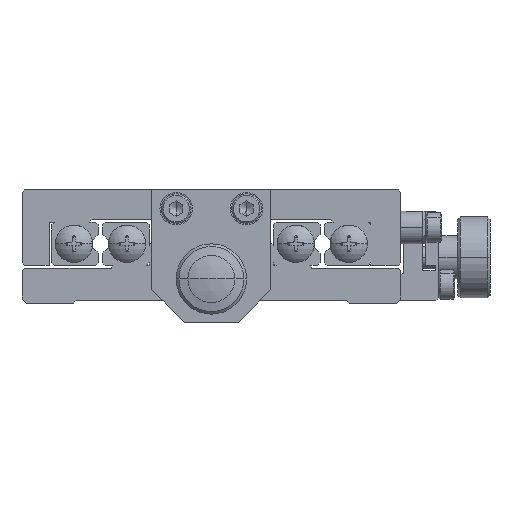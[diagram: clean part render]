
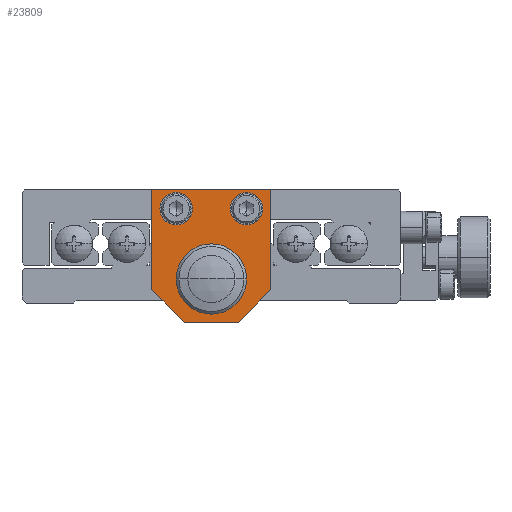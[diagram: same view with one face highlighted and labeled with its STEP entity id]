
A CAD part, front view. The second image highlights one B-rep face of the part: STEP entity #23809.
In plain terms, the highlighted planar face has unit normal (0, -1, 0).
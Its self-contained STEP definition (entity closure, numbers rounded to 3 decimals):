
#19445 = EDGE_CURVE ( 'NONE', #19447, #19449, #36087, .T. ) ;
#19447 = VERTEX_POINT ( 'NONE', #36082 ) ;
#19449 = VERTEX_POINT ( 'NONE', #36081 ) ;
#19724 = EDGE_CURVE ( 'NONE', #19895, #19725, #36398, .T. ) ;
#19725 = VERTEX_POINT ( 'NONE', #36393 ) ;
#19808 = EDGE_CURVE ( 'NONE', #19811, #19813, #36489, .T. ) ;
#19811 = VERTEX_POINT ( 'NONE', #36547 ) ;
#19813 = VERTEX_POINT ( 'NONE', #36546 ) ;
#19895 = VERTEX_POINT ( 'NONE', #36638 ) ;
#23787 = EDGE_CURVE ( 'NONE', #23928, #23815, #41433, .T. ) ;
#23791 = EDGE_LOOP ( 'NONE', ( #23792, #23889 ) ) ;
#23792 = ORIENTED_EDGE ( 'NONE', *, *, #23888, .T. ) ;
#23809 = ADVANCED_FACE ( 'NONE', ( #41470, #41469, #41466, #41465 ), #41467, .F. ) ;
#23810 = EDGE_LOOP ( 'NONE', ( #23811, #23820, #23916, #23919, #23924, #23931 ) ) ;
#23811 = ORIENTED_EDGE ( 'NONE', *, *, #23812, .T. ) ;
#23812 = EDGE_CURVE ( 'NONE', #23815, #23817, #41512, .T. ) ;
#23815 = VERTEX_POINT ( 'NONE', #41508 ) ;
#23817 = VERTEX_POINT ( 'NONE', #41507 ) ;
#23820 = ORIENTED_EDGE ( 'NONE', *, *, #23911, .T. ) ;
#23888 = EDGE_CURVE ( 'NONE', #19813, #19811, #41613, .T. ) ;
#23889 = ORIENTED_EDGE ( 'NONE', *, *, #19808, .T. ) ;
#23890 = EDGE_LOOP ( 'NONE', ( #23891, #23896 ) ) ;
#23891 = ORIENTED_EDGE ( 'NONE', *, *, #23893, .T. ) ;
#23893 = EDGE_CURVE ( 'NONE', #19725, #19895, #41608, .T. ) ;
#23896 = ORIENTED_EDGE ( 'NONE', *, *, #19724, .T. ) ;
#23898 = EDGE_LOOP ( 'NONE', ( #23900, #23901 ) ) ;
#23900 = ORIENTED_EDGE ( 'NONE', *, *, #19445, .F. ) ;
#23901 = ORIENTED_EDGE ( 'NONE', *, *, #23902, .F. ) ;
#23902 = EDGE_CURVE ( 'NONE', #19449, #19447, #41603, .T. ) ;
#23911 = EDGE_CURVE ( 'NONE', #23817, #23913, #41591, .T. ) ;
#23913 = VERTEX_POINT ( 'NONE', #41587 ) ;
#23916 = ORIENTED_EDGE ( 'NONE', *, *, #23917, .T. ) ;
#23917 = EDGE_CURVE ( 'NONE', #23913, #23918, #41586, .T. ) ;
#23918 = VERTEX_POINT ( 'NONE', #41582 ) ;
#23919 = ORIENTED_EDGE ( 'NONE', *, *, #23920, .T. ) ;
#23920 = EDGE_CURVE ( 'NONE', #23918, #23923, #41646, .T. ) ;
#23923 = VERTEX_POINT ( 'NONE', #41642 ) ;
#23924 = ORIENTED_EDGE ( 'NONE', *, *, #23926, .T. ) ;
#23926 = EDGE_CURVE ( 'NONE', #23923, #23928, #41641, .T. ) ;
#23928 = VERTEX_POINT ( 'NONE', #41637 ) ;
#23931 = ORIENTED_EDGE ( 'NONE', *, *, #23787, .T. ) ;
#36081 = CARTESIAN_POINT ( 'NONE',  ( -5.25, -55.5, -2.5 ) ) ;
#36082 = CARTESIAN_POINT ( 'NONE',  ( 5.25, -55.5, -2.5 ) ) ;
#36083 = DIRECTION ( 'NONE',  ( 1., 0., 0. ) ) ;
#36084 = DIRECTION ( 'NONE',  ( 0., -1., 0. ) ) ;
#36085 = CARTESIAN_POINT ( 'NONE',  ( 0., -55.5, -2.5 ) ) ;
#36086 = AXIS2_PLACEMENT_3D ( 'NONE', #36085, #36084, #36083 ) ;
#36087 = CIRCLE ( 'NONE', #36086, 5.25 ) ;
#36393 = CARTESIAN_POINT ( 'NONE',  ( -6.5, -55.5, 13.5 ) ) ;
#36394 = DIRECTION ( 'NONE',  ( 0., 0., 1. ) ) ;
#36395 = DIRECTION ( 'NONE',  ( 0., 1., 0. ) ) ;
#36396 = CARTESIAN_POINT ( 'NONE',  ( -6.5, -55.5, 10.5 ) ) ;
#36397 = AXIS2_PLACEMENT_3D ( 'NONE', #36396, #36395, #36394 ) ;
#36398 = CIRCLE ( 'NONE', #36397, 3. ) ;
#36486 = DIRECTION ( 'NONE',  ( 0., 1., 0. ) ) ;
#36487 = CARTESIAN_POINT ( 'NONE',  ( 6.5, -55.5, 10.5 ) ) ;
#36488 = AXIS2_PLACEMENT_3D ( 'NONE', #36487, #36486, #36548 ) ;
#36489 = CIRCLE ( 'NONE', #36488, 3. ) ;
#36546 = CARTESIAN_POINT ( 'NONE',  ( 6.5, -55.5, 13.5 ) ) ;
#36547 = CARTESIAN_POINT ( 'NONE',  ( 6.5, -55.5, 7.5 ) ) ;
#36548 = DIRECTION ( 'NONE',  ( 0., 0., 1. ) ) ;
#36638 = CARTESIAN_POINT ( 'NONE',  ( -6.5, -55.5, 7.5 ) ) ;
#41430 = DIRECTION ( 'NONE',  ( 1., 0., 0. ) ) ;
#41431 = VECTOR ( 'NONE', #41430, 1000. ) ;
#41432 = CARTESIAN_POINT ( 'NONE',  ( -5., -55.5, -10.5 ) ) ;
#41433 = LINE ( 'NONE', #41432, #41431 ) ;
#41465 = FACE_BOUND ( 'NONE', #23898, .T. ) ;
#41466 = FACE_BOUND ( 'NONE', #23890, .T. ) ;
#41467 = PLANE ( 'NONE',  #41516 ) ;
#41469 = FACE_BOUND ( 'NONE', #23791, .T. ) ;
#41470 = FACE_OUTER_BOUND ( 'NONE', #23810, .T. ) ;
#41507 = CARTESIAN_POINT ( 'NONE',  ( 11., -55.5, -4.5 ) ) ;
#41508 = CARTESIAN_POINT ( 'NONE',  ( 5., -55.5, -10.5 ) ) ;
#41509 = DIRECTION ( 'NONE',  ( 0.707, 0., 0.707 ) ) ;
#41510 = VECTOR ( 'NONE', #41509, 1000. ) ;
#41511 = CARTESIAN_POINT ( 'NONE',  ( 5., -55.5, -10.5 ) ) ;
#41512 = LINE ( 'NONE', #41511, #41510 ) ;
#41513 = DIRECTION ( 'NONE',  ( 1., 0., 0. ) ) ;
#41514 = DIRECTION ( 'NONE',  ( 0., 1., 0. ) ) ;
#41515 = CARTESIAN_POINT ( 'NONE',  ( 0., -55.5, -15.5 ) ) ;
#41516 = AXIS2_PLACEMENT_3D ( 'NONE', #41515, #41514, #41513 ) ;
#41582 = CARTESIAN_POINT ( 'NONE',  ( -11., -55.5, 14. ) ) ;
#41583 = DIRECTION ( 'NONE',  ( -1., 0., 0. ) ) ;
#41584 = VECTOR ( 'NONE', #41583, 1000. ) ;
#41585 = CARTESIAN_POINT ( 'NONE',  ( 11., -55.5, 14. ) ) ;
#41586 = LINE ( 'NONE', #41585, #41584 ) ;
#41587 = CARTESIAN_POINT ( 'NONE',  ( 11., -55.5, 14. ) ) ;
#41588 = DIRECTION ( 'NONE',  ( 0., 0., 1. ) ) ;
#41589 = VECTOR ( 'NONE', #41588, 1000. ) ;
#41590 = CARTESIAN_POINT ( 'NONE',  ( 11., -55.5, -4.5 ) ) ;
#41591 = LINE ( 'NONE', #41590, #41589 ) ;
#41599 = DIRECTION ( 'NONE',  ( 1., 0., 0. ) ) ;
#41600 = DIRECTION ( 'NONE',  ( 0., -1., 0. ) ) ;
#41601 = CARTESIAN_POINT ( 'NONE',  ( 0., -55.5, -2.5 ) ) ;
#41602 = AXIS2_PLACEMENT_3D ( 'NONE', #41601, #41600, #41599 ) ;
#41603 = CIRCLE ( 'NONE', #41602, 5.25 ) ;
#41604 = DIRECTION ( 'NONE',  ( 0., 0., 1. ) ) ;
#41605 = DIRECTION ( 'NONE',  ( 0., 1., 0. ) ) ;
#41606 = CARTESIAN_POINT ( 'NONE',  ( -6.5, -55.5, 10.5 ) ) ;
#41607 = AXIS2_PLACEMENT_3D ( 'NONE', #41606, #41605, #41604 ) ;
#41608 = CIRCLE ( 'NONE', #41607, 3. ) ;
#41609 = DIRECTION ( 'NONE',  ( 0., 0., 1. ) ) ;
#41610 = DIRECTION ( 'NONE',  ( 0., 1., 0. ) ) ;
#41611 = CARTESIAN_POINT ( 'NONE',  ( 6.5, -55.5, 10.5 ) ) ;
#41612 = AXIS2_PLACEMENT_3D ( 'NONE', #41611, #41610, #41609 ) ;
#41613 = CIRCLE ( 'NONE', #41612, 3. ) ;
#41637 = CARTESIAN_POINT ( 'NONE',  ( -5., -55.5, -10.5 ) ) ;
#41638 = DIRECTION ( 'NONE',  ( 0.707, 0., -0.707 ) ) ;
#41639 = VECTOR ( 'NONE', #41638, 1000. ) ;
#41640 = CARTESIAN_POINT ( 'NONE',  ( -11., -55.5, -4.5 ) ) ;
#41641 = LINE ( 'NONE', #41640, #41639 ) ;
#41642 = CARTESIAN_POINT ( 'NONE',  ( -11., -55.5, -4.5 ) ) ;
#41643 = DIRECTION ( 'NONE',  ( 0., 0., -1. ) ) ;
#41644 = VECTOR ( 'NONE', #41643, 1000. ) ;
#41645 = CARTESIAN_POINT ( 'NONE',  ( -11., -55.5, 14. ) ) ;
#41646 = LINE ( 'NONE', #41645, #41644 ) ;
